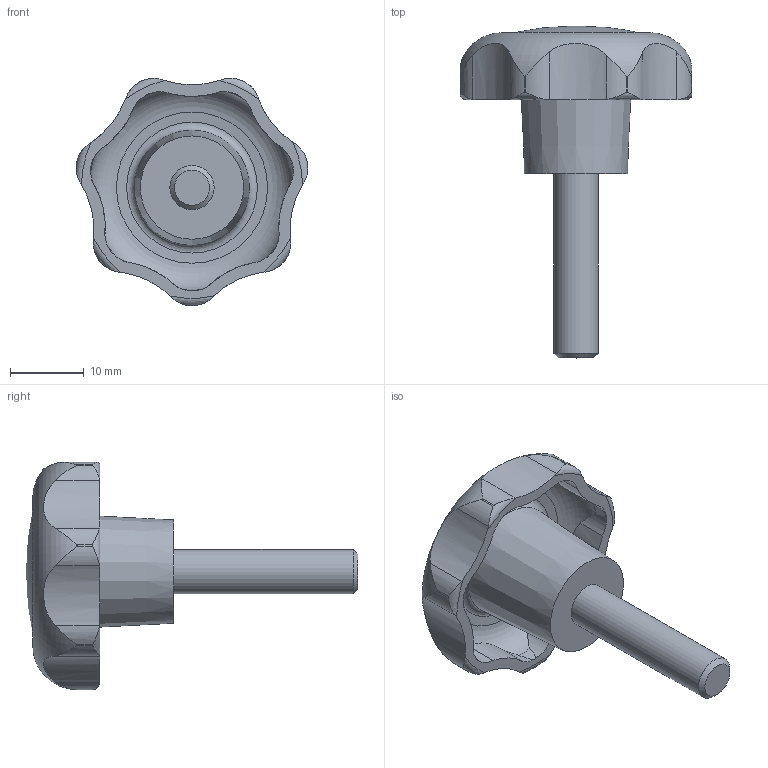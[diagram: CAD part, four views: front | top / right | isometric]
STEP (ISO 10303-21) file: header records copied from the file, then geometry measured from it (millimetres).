
FILE_DESCRIPTION( ( 'STEP AP203' ), '1' );
FILE_NAME( 'C:/Temp/Ganter_Step_05_03_2020/data/2_2/gn_6336_4/gn_6336_4_st/Star knob GN 6336.4-ST-32-M6-25.stp', '2020-03-05T12:07:21', ( 'License CC BY-ND 4.0' ), ( 'CADENAS' ), ' ', 'PARTsolutions', ' ' );
FILE_SCHEMA( ( 'CONFIG_CONTROL_DESIGN' ) );
Length unit declared in the file: millimetre
Products named in the file (1): _Star knob GN 6336.4-ST-32-M6-25
Bounding box: 31.4 x 45 x 30.81 mm (x, y, z)
Volume: 6508.7 mm3; surface area: 3647.4 mm2
Topology: 1 solids, 1 shells, 74 faces, 209 edges, 138 vertices
Faces by surface type: cylinder 50, torus 10, cone 10, plane 3, sphere 1
Full cylindrical faces by diameter (mm): 6 x1
Entity records: 3221 total; most frequent: CARTESIAN_POINT 1406, ORIENTED_EDGE 394, DIRECTION 336, EDGE_CURVE 197, AXIS2_PLACEMENT_3D 147, VERTEX_POINT 136, EDGE_LOOP 83, B_SPLINE_CURVE_WITH_KNOTS 83
